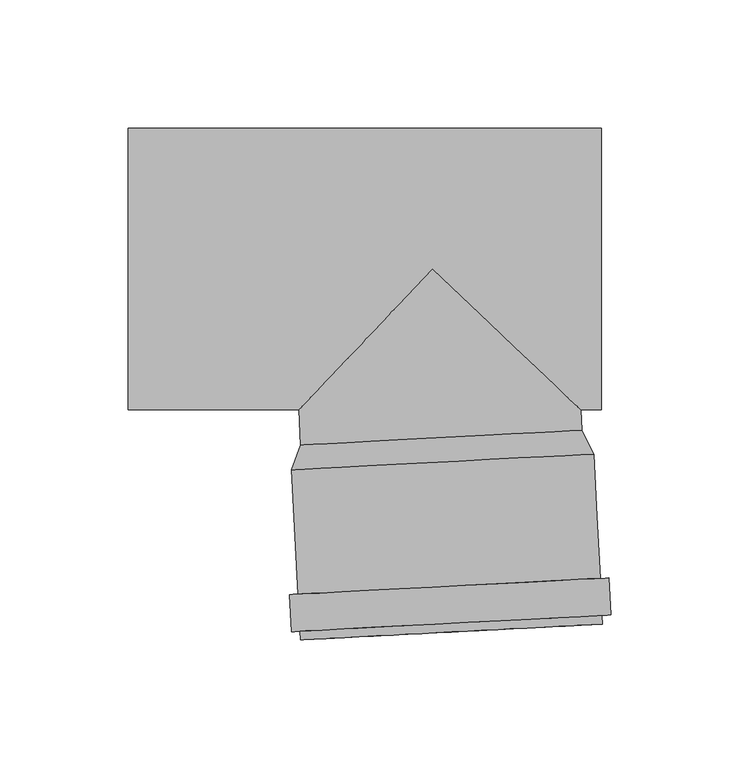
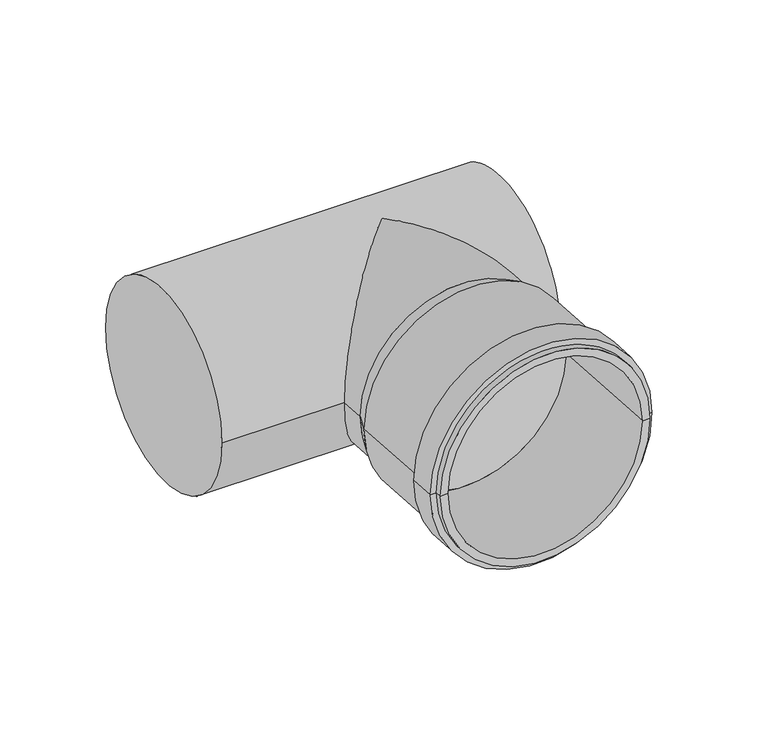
"""IFC4 building model written with IfcOpenShell, lengths in millimetres: pipe fitting geometry, pf_HTEA : pf_HTEA."""

from ifc_helpers import new_model, si_unit, frame, origin, place, context, project, spatial, polyline, circle_curve, ellipse_curve, source, transform, mapped, element, save
from ifc_brep_helpers import plane_surface, cylinder_surface, revolved_surface, advanced_brep


def pipe_fitting_0c0664dd(model_context):
    return source(origin(), model_context, "Body", "AdvancedBrep", [
        advanced_brep(
        [(-51.4704513, -68.7880269, 0.0), (58.3787975, -63.0310717, 0.0), (62.9703702, -72.3034749, 0.0), (-55.0676408, -78.4895849, 0.0), (3.4541731, -65.9095493, 0.0), (-51.5872997, -144.8984489, 0.0), (66.4507113, -138.7123389, 0.0), (62.3563302, -138.9269163, 0.0), (-47.4929186, -144.6838715, 0.0), (-51.765242, -141.5031085, 0.0), (66.272769, -135.3169985, 0.0), (-55.1605824, -141.6810508, 0.0), (69.6681095, -135.1390563, 0.0), (-55.9194538, -127.2009225, 0.0), (68.9092381, -120.658928, 0.0), (-52.5241133, -127.0229803, 0.0), (65.5138977, -120.8368702, 0.0), (-50.9732597, -78.2750075, 0.0), (58.8759891, -72.5180523, 0.0), (3.9513647, -75.3965299, 0.0)],
        [
            (0, 1, circle_curve(frame((3.4541731, -65.9095493, 0.0), z_axis=(0.0523359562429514, -0.9986295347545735, 0.0), x_axis=(0.9986295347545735, 0.0523359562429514, 0.0)), 55.0)),
            (1, 2),
            (2, 3, circle_curve(frame((3.9513647, -75.3965299, 0.0), z_axis=(-0.0523359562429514, 0.9986295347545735, 0.0), x_axis=(0.9986295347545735, 0.0523359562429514, 0.0)), 59.1)),
            (3, 0),
            (1, 0, circle_curve(frame((3.4541731, -65.9095493, 0.0), z_axis=(0.0523359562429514, -0.9986295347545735, 0.0), x_axis=(0.9986295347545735, 0.0523359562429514, 0.0)), 55.0)),
            (3, 2, circle_curve(frame((3.9513647, -75.3965299, 0.0), z_axis=(-0.0523359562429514, 0.9986295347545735, 0.0), x_axis=(0.9986295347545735, 0.0523359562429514, 0.0)), 59.1)),
            (4, 1),
            (0, 4),
            (5, 6, circle_curve(frame((7.4317058, -141.8053939, 0.0), z_axis=(0.0523359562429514, -0.9986295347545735, 0.0), x_axis=(0.9986295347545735, 0.0523359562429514, 0.0)), 59.1)),
            (6, 7),
            (7, 8, circle_curve(frame((7.4317058, -141.8053939, 0.0), z_axis=(-0.0523359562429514, 0.9986295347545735, 0.0), x_axis=(0.9986295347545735, 0.0523359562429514, 0.0)), 55.0)),
            (8, 5),
            (6, 5, circle_curve(frame((7.4317058, -141.8053939, 0.0), z_axis=(0.0523359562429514, -0.9986295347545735, 0.0), x_axis=(0.9986295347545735, 0.0523359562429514, 0.0)), 59.1)),
            (8, 7, circle_curve(frame((7.4317058, -141.8053939, 0.0), z_axis=(-0.0523359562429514, 0.9986295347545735, 0.0), x_axis=(0.9986295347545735, 0.0523359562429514, 0.0)), 55.0)),
            (9, 10, circle_curve(frame((7.2537635, -138.4100535, 0.0), z_axis=(0.0523359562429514, -0.9986295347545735, 0.0), x_axis=(0.9986295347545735, 0.0523359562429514, 0.0)), 59.1)),
            (10, 6),
            (5, 9),
            (10, 9, circle_curve(frame((7.2537635, -138.4100535, 0.0), z_axis=(0.0523359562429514, -0.9986295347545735, 0.0), x_axis=(0.9986295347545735, 0.0523359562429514, 0.0)), 59.1)),
            (11, 12, circle_curve(frame((7.2537635, -138.4100535, 0.0), z_axis=(0.0523359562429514, -0.9986295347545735, 0.0), x_axis=(0.9986295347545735, 0.0523359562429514, 0.0)), 62.5)),
            (12, 10),
            (9, 11),
            (12, 11, circle_curve(frame((7.2537635, -138.4100535, 0.0), z_axis=(0.0523359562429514, -0.9986295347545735, 0.0), x_axis=(0.9986295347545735, 0.0523359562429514, 0.0)), 62.5)),
            (13, 14, circle_curve(frame((6.4948922, -123.9299253, 0.0), z_axis=(0.0523359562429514, -0.9986295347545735, 0.0), x_axis=(0.9986295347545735, 0.0523359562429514, 0.0)), 62.5)),
            (14, 12),
            (11, 13),
            (14, 13, circle_curve(frame((6.4948922, -123.9299253, 0.0), z_axis=(0.0523359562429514, -0.9986295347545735, 0.0), x_axis=(0.9986295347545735, 0.0523359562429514, 0.0)), 62.5)),
            (15, 16, circle_curve(frame((6.4948922, -123.9299253, 0.0), z_axis=(0.0523359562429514, -0.9986295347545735, 0.0), x_axis=(0.9986295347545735, 0.0523359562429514, 0.0)), 59.1)),
            (16, 14),
            (13, 15),
            (16, 15, circle_curve(frame((6.4948922, -123.9299253, 0.0), z_axis=(0.0523359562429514, -0.9986295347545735, 0.0), x_axis=(0.9986295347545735, 0.0523359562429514, 0.0)), 59.1)),
            (2, 16),
            (15, 3),
            (17, 18, circle_curve(frame((3.9513647, -75.3965299, 0.0), z_axis=(0.0523359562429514, -0.9986295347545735, 0.0), x_axis=(0.9986295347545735, 0.0523359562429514, 0.0)), 55.0)),
            (18, 19),
            (19, 17),
            (18, 17, circle_curve(frame((3.9513647, -75.3965299, 0.0), z_axis=(0.0523359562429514, -0.9986295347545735, 0.0), x_axis=(0.9986295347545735, 0.0523359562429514, 0.0)), 55.0)),
            (7, 18),
            (17, 8),
        ],
        [
            revolved_surface(polyline([(62.9703702, -72.3034749, 0.0), (58.3787975, -63.0310717, 0.0)]), (3.4541731, -65.9095493, 0.0), (-0.0523359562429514, 0.9986295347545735, 0.0)),
            plane_surface(frame((3.4541731, -65.9095493, 0.0), z_axis=(-0.0523359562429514, 0.9986295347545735, 0.0), x_axis=(0.9986295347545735, 0.0523359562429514, 0.0))),
            plane_surface(frame((7.4317058, -141.8053939, 0.0), z_axis=(0.0523359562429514, -0.9986295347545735, 0.0), x_axis=(0.9986295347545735, 0.0523359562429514, 0.0))),
            cylinder_surface(frame((3.4541731, -65.9095493, 0.0), z_axis=(-0.0523359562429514, 0.9986295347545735, 0.0), x_axis=(0.9986295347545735, 0.0523359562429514, 0.0)), 59.1),
            plane_surface(frame((7.2537635, -138.4100535, 0.0), z_axis=(0.0523359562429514, -0.9986295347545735, 0.0), x_axis=(0.9986295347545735, 0.0523359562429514, 0.0))),
            cylinder_surface(frame((3.4541731, -65.9095493, 0.0), z_axis=(-0.0523359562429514, 0.9986295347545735, 0.0), x_axis=(0.9986295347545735, 0.0523359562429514, 0.0)), 62.5),
            plane_surface(frame((6.4948922, -123.9299253, 0.0), z_axis=(-0.0523359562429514, 0.9986295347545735, 0.0), x_axis=(0.9986295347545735, 0.0523359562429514, 0.0))),
            plane_surface(frame((3.9513647, -75.3965299, 0.0), z_axis=(0.0523359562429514, -0.9986295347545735, 0.0), x_axis=(0.9986295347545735, 0.0523359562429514, 0.0))),
            revolved_surface(polyline([(58.87598909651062, -72.51805230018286, 0.0), (62.3563301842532, -138.92691631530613, 0.0)]), (3.4541731, -65.9095493, 0.0), (-0.0523359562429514, 0.9986295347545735, 0.0)),
        ],
        [
            (0, [[1, 2, 3, 4]]),
            (0, [[5, -4, 6, -2]]),
            (1, [[7, -1, 8]]),
            (1, [[-8, -5, -7]]),
            (2, [[9, 10, 11, 12]]),
            (2, [[13, -12, 14, -10]]),
            (3, [[15, 16, -9, 17]]),
            (3, [[18, -17, -13, -16]]),
            (4, [[19, 20, -15, 21]]),
            (4, [[22, -21, -18, -20]]),
            (5, [[23, 24, -19, 25]]),
            (5, [[26, -25, -22, -24]]),
            (6, [[27, 28, -23, 29]]),
            (6, [[30, -29, -26, -28]]),
            (3, [[-3, 31, -27, 32]]),
            (3, [[-6, -32, -30, -31]]),
            (7, [[33, 34, 35]]),
            (7, [[36, -35, -34]]),
            (8, [[-11, 37, -33, 38]]),
            (8, [[-14, -38, -36, -37]]),
        ],
    ),
        advanced_brep(
        [(-51.4704513, -68.7880269, 0.0), (58.3787975, -63.0310717, 0.0), (-119.0, -55.0, 0.0), (-119.0, 55.0, 0.0), (66.0, -55.0, 0.0), (66.0, 55.0, 0.0), (-52.1930512, -55.0, 0.0), (0.0, 0.0, 55.0), (57.9579069, -55.0, 0.0), (0.0, 0.0, -55.0)],
        [
            (0, 1, circle_curve(frame((3.4541731, -65.9095493, 0.0), z_axis=(0.05233595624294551, -0.9986295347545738, 0.0), x_axis=(0.9986295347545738, 0.05233595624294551, 0.0)), 55.0)),
            (1, 0, circle_curve(frame((3.4541731, -65.9095493, 0.0), z_axis=(0.05233595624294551, -0.9986295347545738, 0.0), x_axis=(0.9986295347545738, 0.05233595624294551, 0.0)), 55.0)),
            (2, 3, circle_curve(frame((-119.0, 0.0, 0.0), z_axis=(-1.0, 0.0, 0.0), x_axis=(0.0, 1.0, 0.0)), 55.0)),
            (3, 2, circle_curve(frame((-119.0, 0.0, 0.0), z_axis=(-1.0, 0.0, 0.0), x_axis=(0.0, 1.0, 0.0)), 55.0)),
            (4, 5, circle_curve(frame((66.0, 0.0, 0.0), z_axis=(1.0, 0.0, 0.0), x_axis=(0.0, 1.0, 0.0)), 55.0)),
            (5, 4, circle_curve(frame((66.0, 0.0, 0.0), z_axis=(1.0, 0.0, 0.0), x_axis=(0.0, 1.0, 0.0)), 55.0)),
            (2, 6),
            (6, 7, ellipse_curve(frame((0.0, 0.0, 0.0), z_axis=(-0.7253743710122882, 0.6883545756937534, 0.0), x_axis=(-0.6883545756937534, -0.7253743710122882, 0.0)), 75.822916, 55.0)),
            (7, 8, ellipse_curve(frame((0.0, 0.0, 0.0), z_axis=(0.6883545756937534, 0.7253743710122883, 0.0), x_axis=(-0.7253743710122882, 0.6883545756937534, 0.0)), 79.9006819, 55.0)),
            (8, 4),
            (5, 3),
            (8, 9, ellipse_curve(frame((0.0, 0.0, 0.0), z_axis=(0.6883545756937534, 0.7253743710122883, 0.0), x_axis=(-0.7253743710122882, 0.6883545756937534, 0.0)), 79.9006819, 55.0)),
            (9, 6, ellipse_curve(frame((0.0, 0.0, 0.0), z_axis=(-0.7253743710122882, 0.6883545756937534, 0.0), x_axis=(-0.6883545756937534, -0.7253743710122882, 0.0)), 75.822916, 55.0)),
            (1, 8),
            (6, 0),
        ],
        [
            plane_surface(frame((3.4541731, -65.9095493, 0.0), z_axis=(0.052335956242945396, -0.9986295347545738, 0.0), x_axis=(0.0, 0.0, 1.0))),
            plane_surface(frame((-119.0, 0.0, 0.0), z_axis=(-1.0, 0.0, 0.0), x_axis=(0.0, 0.0, 1.0))),
            plane_surface(frame((66.0, 0.0, 0.0), z_axis=(1.0, 0.0, 0.0), x_axis=(0.0, 0.0, 1.0))),
            cylinder_surface(frame((-119.0, 0.0, 0.0), z_axis=(-1.0, 0.0, 0.0), x_axis=(0.0, 1.0, 0.0)), 55.0),
            cylinder_surface(frame((0.0, 0.0, 0.0), z_axis=(-0.05233595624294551, 0.9986295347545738, 0.0), x_axis=(0.9986295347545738, 0.05233595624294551, 0.0)), 55.0),
        ],
        [
            (0, [[1, 2]]),
            (1, [[3, 4]]),
            (2, [[5, 6]]),
            (3, [[-3, 7, 8, 9, 10, -6, 11]]),
            (3, [[-4, -11, -5, -10, 12, 13, -7]]),
            (4, [[-2, 14, -9, -8, 15]]),
            (4, [[-1, -15, -13, -12, -14]]),
        ],
    ),
    ])


if __name__ == "__main__":
    model = new_model("IFC4")
    model_context = context("Model", 3, world=origin())
    ifc_project = project(units=[si_unit("LENGTHUNIT", "METRE", prefix="MILLI")], contexts=[model_context])
    site = spatial("IfcSite", under=ifc_project)
    building = spatial("IfcBuilding", under=site)
    placement = place(None, origin())
    pipe_fitting_shape = pipe_fitting_0c0664dd(model_context)
    element("IfcPipeFitting", 1, ObjectType="pf_HTEA : pf_HTEA", at=placement, inside=building, context=model_context, shape_type="MappedRepresentation", body=[
        mapped(pipe_fitting_shape, transform((0.0, 0.0, 0.0), x_axis=(1.0, 0.0, 0.0), y_axis=(0.0, 1.0, 0.0), z_axis=(0.0, 0.0, 1.0))),
    ])
    save(model, "model.ifc")
